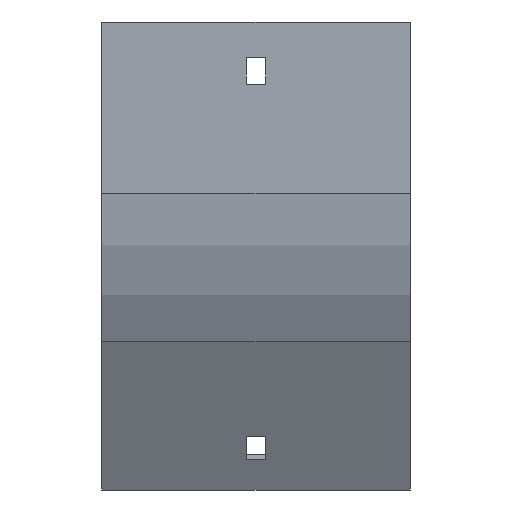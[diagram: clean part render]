
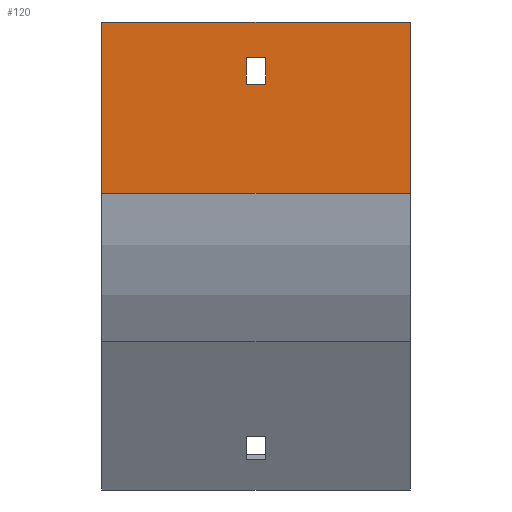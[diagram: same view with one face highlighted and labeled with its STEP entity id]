
A CAD part, front view. The second image highlights one B-rep face of the part: STEP entity #120.
In plain terms, the highlighted planar face has unit normal (0, -1, 0).
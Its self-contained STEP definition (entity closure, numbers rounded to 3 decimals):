
#68 = VERTEX_POINT ( 'NONE', #1027 ) ;
#120 = ADVANCED_FACE ( 'NONE', ( #1784, #1643 ), #1480, .F. ) ;
#151 = EDGE_LOOP ( 'NONE', ( #595, #527, #974, #1477 ) ) ;
#202 = ORIENTED_EDGE ( 'NONE', *, *, #927, .F. ) ;
#209 = CARTESIAN_POINT ( 'NONE',  ( 52., -104., -57.867 ) ) ;
#228 = LINE ( 'NONE', #209, #1738 ) ;
#235 = EDGE_CURVE ( 'NONE', #1869, #1429, #591, .T. ) ;
#244 = CARTESIAN_POINT ( 'NONE',  ( -52., -104., 0. ) ) ;
#270 = EDGE_CURVE ( 'NONE', #819, #68, #1864, .T. ) ;
#366 = ORIENTED_EDGE ( 'NONE', *, *, #1305, .T. ) ;
#435 = DIRECTION ( 'NONE',  ( 0., 1., 0. ) ) ;
#469 = LINE ( 'NONE', #1293, #1614 ) ;
#527 = ORIENTED_EDGE ( 'NONE', *, *, #1778, .T. ) ;
#591 = LINE ( 'NONE', #1200, #683 ) ;
#595 = ORIENTED_EDGE ( 'NONE', *, *, #270, .T. ) ;
#678 = ORIENTED_EDGE ( 'NONE', *, *, #1029, .F. ) ;
#679 = DIRECTION ( 'NONE',  ( -1., 0., 0. ) ) ;
#683 = VECTOR ( 'NONE', #762, 1000. ) ;
#712 = CARTESIAN_POINT ( 'NONE',  ( 52., -104., -57.867 ) ) ;
#737 = CARTESIAN_POINT ( 'NONE',  ( 52., -104., 0. ) ) ;
#744 = DIRECTION ( 'NONE',  ( 0., 0., -1. ) ) ;
#762 = DIRECTION ( 'NONE',  ( -1., 0., 0. ) ) ;
#790 = CARTESIAN_POINT ( 'NONE',  ( 3.25, -104., -12. ) ) ;
#791 = CARTESIAN_POINT ( 'NONE',  ( 3.25, -104., -21. ) ) ;
#819 = VERTEX_POINT ( 'NONE', #791 ) ;
#839 = LINE ( 'NONE', #921, #1264 ) ;
#845 = DIRECTION ( 'NONE',  ( 0., 0., 1. ) ) ;
#877 = CARTESIAN_POINT ( 'NONE',  ( 52., -104., -57.867 ) ) ;
#885 = DIRECTION ( 'NONE',  ( 0., 0., -1. ) ) ;
#909 = VERTEX_POINT ( 'NONE', #953 ) ;
#919 = VERTEX_POINT ( 'NONE', #1867 ) ;
#921 = CARTESIAN_POINT ( 'NONE',  ( -3.25, -104., -21. ) ) ;
#927 = EDGE_CURVE ( 'NONE', #909, #919, #228, .T. ) ;
#937 = VECTOR ( 'NONE', #679, 1000. ) ;
#953 = CARTESIAN_POINT ( 'NONE',  ( 52., -104., -57.867 ) ) ;
#974 = ORIENTED_EDGE ( 'NONE', *, *, #1793, .T. ) ;
#978 = EDGE_CURVE ( 'NONE', #1315, #819, #997, .T. ) ;
#987 = VECTOR ( 'NONE', #744, 1000. ) ;
#997 = LINE ( 'NONE', #1598, #987 ) ;
#1001 = EDGE_LOOP ( 'NONE', ( #366, #202, #678, #1765 ) ) ;
#1027 = CARTESIAN_POINT ( 'NONE',  ( -3.25, -104., -21. ) ) ;
#1029 = EDGE_CURVE ( 'NONE', #1869, #909, #1936, .T. ) ;
#1109 = VECTOR ( 'NONE', #885, 1000. ) ;
#1200 = CARTESIAN_POINT ( 'NONE',  ( 52., -104., 0. ) ) ;
#1264 = VECTOR ( 'NONE', #1716, 1000. ) ;
#1286 = AXIS2_PLACEMENT_3D ( 'NONE', #712, #435, #845 ) ;
#1293 = CARTESIAN_POINT ( 'NONE',  ( -3.25, -104., -12. ) ) ;
#1305 = EDGE_CURVE ( 'NONE', #1429, #919, #1563, .T. ) ;
#1315 = VERTEX_POINT ( 'NONE', #790 ) ;
#1421 = CARTESIAN_POINT ( 'NONE',  ( -52., -104., -57.867 ) ) ;
#1429 = VERTEX_POINT ( 'NONE', #244 ) ;
#1477 = ORIENTED_EDGE ( 'NONE', *, *, #978, .T. ) ;
#1480 = PLANE ( 'NONE',  #1286 ) ;
#1553 = DIRECTION ( 'NONE',  ( 0., 0., -1. ) ) ;
#1563 = LINE ( 'NONE', #1421, #1580 ) ;
#1565 = DIRECTION ( 'NONE',  ( -1., 0., 0. ) ) ;
#1580 = VECTOR ( 'NONE', #1553, 1000. ) ;
#1598 = CARTESIAN_POINT ( 'NONE',  ( 3.25, -104., -21. ) ) ;
#1614 = VECTOR ( 'NONE', #1891, 1000. ) ;
#1643 = FACE_OUTER_BOUND ( 'NONE', #1001, .T. ) ;
#1716 = DIRECTION ( 'NONE',  ( 0., 0., 1. ) ) ;
#1738 = VECTOR ( 'NONE', #1565, 1000. ) ;
#1765 = ORIENTED_EDGE ( 'NONE', *, *, #235, .T. ) ;
#1778 = EDGE_CURVE ( 'NONE', #68, #1820, #839, .T. ) ;
#1784 = FACE_BOUND ( 'NONE', #151, .T. ) ;
#1793 = EDGE_CURVE ( 'NONE', #1820, #1315, #469, .T. ) ;
#1820 = VERTEX_POINT ( 'NONE', #1910 ) ;
#1842 = CARTESIAN_POINT ( 'NONE',  ( -3.25, -104., -21. ) ) ;
#1864 = LINE ( 'NONE', #1842, #937 ) ;
#1867 = CARTESIAN_POINT ( 'NONE',  ( -52., -104., -57.867 ) ) ;
#1869 = VERTEX_POINT ( 'NONE', #737 ) ;
#1891 = DIRECTION ( 'NONE',  ( 1., 0., 0. ) ) ;
#1910 = CARTESIAN_POINT ( 'NONE',  ( -3.25, -104., -12. ) ) ;
#1936 = LINE ( 'NONE', #877, #1109 ) ;
